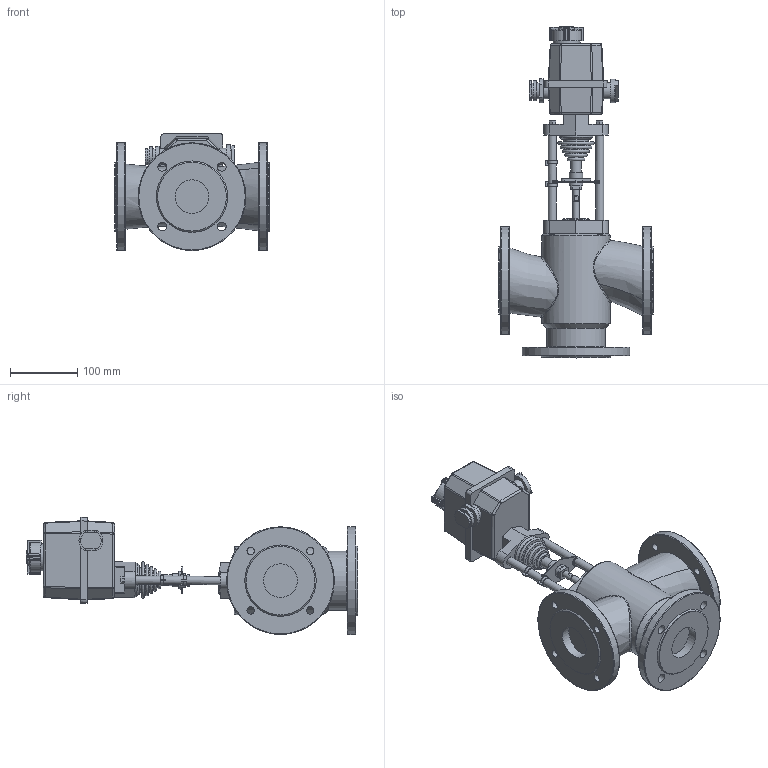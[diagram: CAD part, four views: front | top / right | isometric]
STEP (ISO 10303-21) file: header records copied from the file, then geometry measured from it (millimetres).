
FILE_DESCRIPTION(/* description */ (''),/* implementation_level */ '2;1');
FILE_NAME(/* name */ 'D:\Работа\work by\2017.01.17. клапаны для КПСР 3-хходоввые\Готовые файлы\ST 0\ду 50-1.stp',/* time_stamp */ '2017-02-19T16:34:16+03:00',/* author */ ('Admin'),/* organization */ ('unknown'),/* preprocessor_version */ 'ST-DEVELOPER v16.1',/* originating_system */ 'Autodesk Inventor 2016',/* authorisation */ '');
FILE_SCHEMA (('AUTOMOTIVE_DESIGN { 1 0 10303 214 3 1 1 }'));
Length unit declared in the file: millimetre
Products named in the file (1): ду 50-1
Bounding box: 230 x 492.66 x 173.8 mm (x, y, z)
Volume: 4016456 mm3; surface area: 330963.7 mm2
Topology: 1 solids, 3 shells, 407 faces, 1021 edges, 656 vertices
Faces by surface type: plane 204, cylinder 137, torus 33, sphere 16, cone 9, bspline 8
Full cylindrical faces by diameter (mm): 8.5 x1, 9.6 x1, 10 x1, 11 x8, 12 x4, 13 x4, 16 x1, 20 x3, 22.287 x1, 22.5 x1, 24 x4, 24.3 x1, 25 x1, 29.215 x1, 30.24 x1, 35 x2, 36 x1, 36.144 x1, 40 x3, 43.072 x1, 44 x1, 50 x4, 87.4 x1, 101.2 x1, 102 x3, 160 x3
Entity records: 13247 total; most frequent: CARTESIAN_POINT 3708, DIRECTION 2028, ORIENTED_EDGE 1822, EDGE_CURVE 911, AXIS2_PLACEMENT_3D 771, VERTEX_POINT 629, EDGE_LOOP 564, LINE 486
